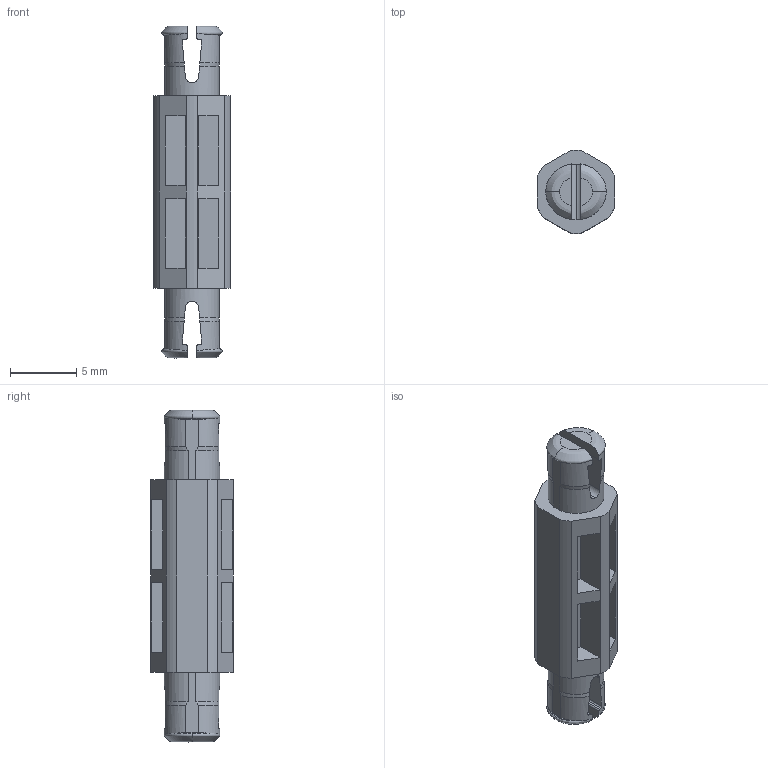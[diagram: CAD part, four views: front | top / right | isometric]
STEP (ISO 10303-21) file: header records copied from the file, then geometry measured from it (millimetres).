
FILE_DESCRIPTION (( 'STEP AP214' ), '1' );
FILE_NAME ('228-2500-2269.STEP', '2021-02-18T20:31:51', ( '' ), ( '' ), 'SwSTEP 2.0', 'SolidWorks 2019', '' );
FILE_SCHEMA (( 'AUTOMOTIVE_DESIGN' ));
Length unit declared in the file: millimetre
Products named in the file (1): 228-2500-2269
Bounding box: 5.8 x 6.24 x 24.98 mm (x, y, z)
Volume: 418 mm3; surface area: 691.5 mm2
Topology: 1 solids, 1 shells, 126 faces, 330 edges, 216 vertices
Faces by surface type: plane 72, cylinder 30, bspline 16, cone 8
Entity records: 13788 total; most frequent: CARTESIAN_POINT 10885, ORIENTED_EDGE 660, DIRECTION 496, EDGE_CURVE 330, VERTEX_POINT 216, VECTOR 178, LINE 178, AXIS2_PLACEMENT_3D 159
